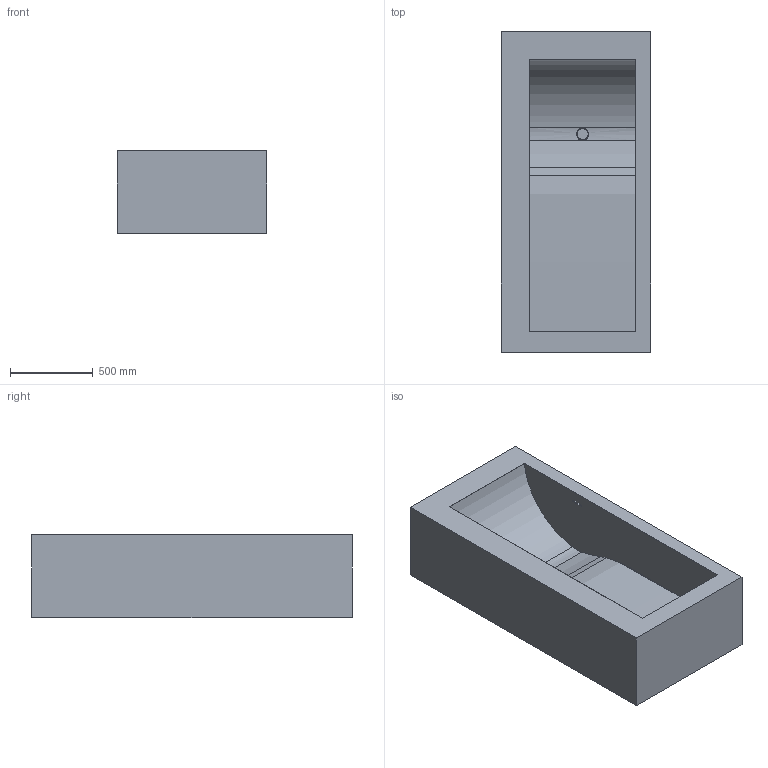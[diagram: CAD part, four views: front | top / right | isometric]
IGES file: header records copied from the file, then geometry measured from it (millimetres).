
Global section: file name: \\Archi-NAS\Comune\X GIOVANNI\LAVABI\VASCHE SQUADRATE CUSTOMIZZABILI\JADE\3D\JADE.igs; native system: Rhinoceros ( Feb 23 2021 ); preprocessor: Trout Lake IGES 012 Feb 23 2021; date: 230531.124447; units: millimetre
Bounding box: 900 x 1931 x 501.11 mm (x, y, z)
Surface area: 7775820.2 mm2 (no closed solid volume)
Topology: 0 solids, 0 shells, 23 faces, 192 edges, 189 vertices
Faces by surface type: bspline 23
